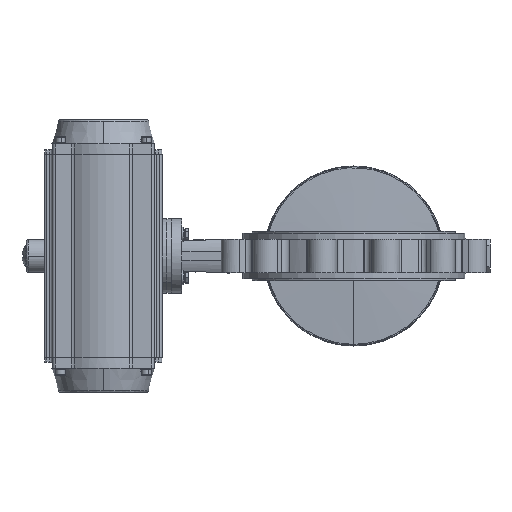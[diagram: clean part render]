
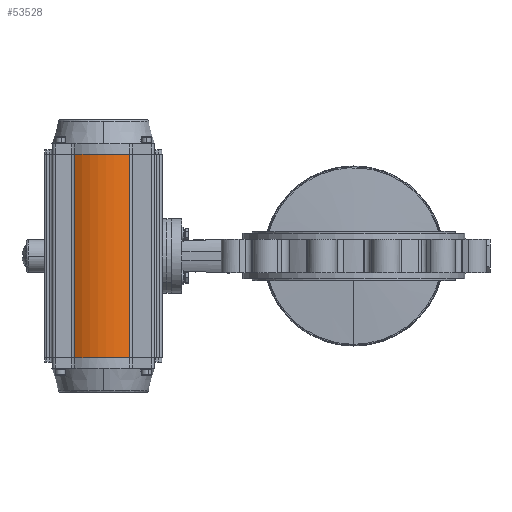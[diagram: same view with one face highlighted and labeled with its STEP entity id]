
A CAD part, left-side view. The second image highlights one B-rep face of the part: STEP entity #53528.
In plain terms, the highlighted cylindrical face has radius 87 mm (diameter 174 mm), a partial arc.
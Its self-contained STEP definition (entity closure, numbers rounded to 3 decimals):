
#1913 = EDGE_LOOP ( 'NONE', ( #67597, #50179, #49639, #39419 ) ) ;
#3138 = CARTESIAN_POINT ( 'NONE',  ( 0., 419.5, 170. ) ) ;
#11762 = CIRCLE ( 'NONE', #73412, 87. ) ;
#14695 = LINE ( 'NONE', #34260, #70587 ) ;
#14726 = DIRECTION ( 'NONE',  ( 1., 0., 0. ) ) ;
#14886 = CARTESIAN_POINT ( 'NONE',  ( -72.649, 467.365, -170. ) ) ;
#16316 = EDGE_CURVE ( 'NONE', #66185, #31080, #11762, .T. ) ;
#21477 = VERTEX_POINT ( 'NONE', #54153 ) ;
#22090 = CARTESIAN_POINT ( 'NONE',  ( 0., 419.5, -170. ) ) ;
#22376 = EDGE_CURVE ( 'NONE', #31080, #36192, #50882, .T. ) ;
#26156 = CARTESIAN_POINT ( 'NONE',  ( -75.34, 375.993, 170. ) ) ;
#27066 = VECTOR ( 'NONE', #51652, 1000. ) ;
#27117 = DIRECTION ( 'NONE',  ( 1., 0., 0. ) ) ;
#27298 = CARTESIAN_POINT ( 'NONE',  ( -75.34, 375.993, -613.224 ) ) ;
#27722 = AXIS2_PLACEMENT_3D ( 'NONE', #22090, #39465, #27117 ) ;
#28259 = CYLINDRICAL_SURFACE ( 'NONE', #27722, 87. ) ;
#30313 = DIRECTION ( 'NONE',  ( 1., 0., 0. ) ) ;
#31080 = VERTEX_POINT ( 'NONE', #50407 ) ;
#31877 = EDGE_CURVE ( 'NONE', #21477, #36192, #47992, .T. ) ;
#34260 = CARTESIAN_POINT ( 'NONE',  ( -72.649, 467.365, -170. ) ) ;
#36192 = VERTEX_POINT ( 'NONE', #26156 ) ;
#38229 = DIRECTION ( 'NONE',  ( 0., 0., -1. ) ) ;
#38688 = FACE_OUTER_BOUND ( 'NONE', #1913, .T. ) ;
#39419 = ORIENTED_EDGE ( 'NONE', *, *, #22376, .T. ) ;
#39465 = DIRECTION ( 'NONE',  ( 0., 0., 1. ) ) ;
#47736 = CARTESIAN_POINT ( 'NONE',  ( 0., 419.5, -170. ) ) ;
#47992 = CIRCLE ( 'NONE', #70206, 87. ) ;
#49639 = ORIENTED_EDGE ( 'NONE', *, *, #16316, .T. ) ;
#50179 = ORIENTED_EDGE ( 'NONE', *, *, #50522, .T. ) ;
#50407 = CARTESIAN_POINT ( 'NONE',  ( -75.34, 375.993, -170. ) ) ;
#50522 = EDGE_CURVE ( 'NONE', #21477, #66185, #14695, .T. ) ;
#50882 = LINE ( 'NONE', #27298, #27066 ) ;
#51652 = DIRECTION ( 'NONE',  ( 0., 0., 1. ) ) ;
#53528 = ADVANCED_FACE ( 'NONE', ( #38688 ), #28259, .T. ) ;
#54153 = CARTESIAN_POINT ( 'NONE',  ( -72.649, 467.365, 170. ) ) ;
#64721 = DIRECTION ( 'NONE',  ( 0., 0., 1. ) ) ;
#66185 = VERTEX_POINT ( 'NONE', #14886 ) ;
#67597 = ORIENTED_EDGE ( 'NONE', *, *, #31877, .F. ) ;
#67693 = DIRECTION ( 'NONE',  ( 0., 0., 1. ) ) ;
#70206 = AXIS2_PLACEMENT_3D ( 'NONE', #3138, #67693, #14726 ) ;
#70587 = VECTOR ( 'NONE', #38229, 1000. ) ;
#73412 = AXIS2_PLACEMENT_3D ( 'NONE', #47736, #64721, #30313 ) ;
